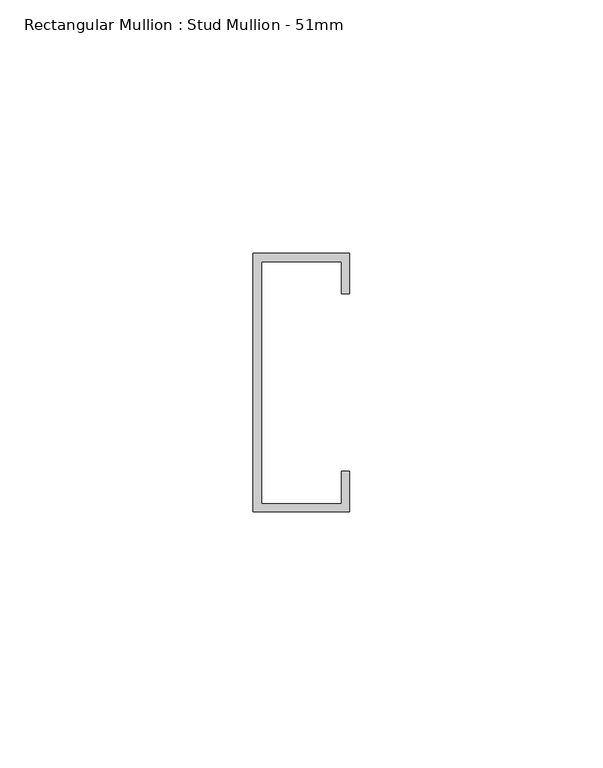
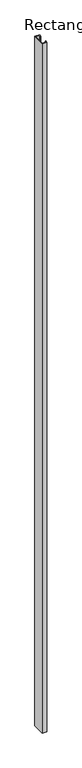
"""IFC4 building model written with IfcOpenShell, lengths in millimetres: member geometry, Rectangular Mullion : Stud Mullion - 51mm."""

from ifc_helpers import new_model, si_unit, frame, origin, place, context, project, spatial, polyline, outline, extrude, source, transform, mapped, element, save


def rectangular_mullion_stud_mullion_51mm_a83d3118(model_context):
    return source(origin(), model_context, "Body", "SweptSolid", [
        extrude(outline(polyline([(9.5, 17.5), (7.9, 17.5), (7.9, 23.9), (-7.9, 23.9), (-7.9, -23.9), (7.9, -23.9), (7.9, -17.5), (9.5, -17.5), (9.5, -25.5), (-9.5, -25.5), (-9.5, 25.5), (9.5, 25.5), (9.5, 17.5)])), frame((0.0, 0.0, -2981.0), z_axis=(0.0, 0.0, 1.0), x_axis=(1.0, 0.0, 0.0)), (0.0, 0.0, 1.0), 2981.0),
    ])


if __name__ == "__main__":
    model = new_model("IFC4")
    model_context = context("Model", 3, world=origin())
    ifc_project = project(units=[si_unit("LENGTHUNIT", "METRE", prefix="MILLI")], contexts=[model_context])
    site = spatial("IfcSite", under=ifc_project)
    building = spatial("IfcBuilding", under=site)
    placement = place(None, origin())
    rectangular_mullion_stud_mullion_51mm_shape = rectangular_mullion_stud_mullion_51mm_a83d3118(model_context)
    element("IfcMember", 1, ObjectType="Rectangular Mullion : Stud Mullion - 51mm", at=placement, inside=building, context=model_context, shape_type="MappedRepresentation", body=[
        mapped(rectangular_mullion_stud_mullion_51mm_shape, transform((0.0, 0.0, 0.0), x_axis=(1.0, 0.0, 0.0), y_axis=(0.0, 1.0, 0.0), z_axis=(0.0, 0.0, 1.0))),
    ])
    save(model, "model.ifc")
